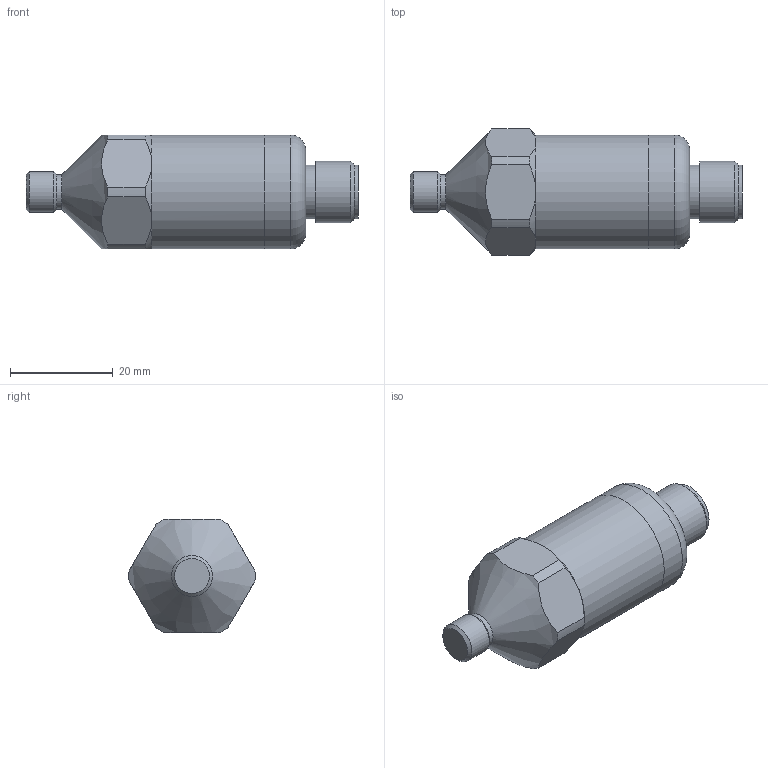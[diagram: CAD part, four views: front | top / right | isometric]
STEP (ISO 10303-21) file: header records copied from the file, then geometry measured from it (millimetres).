
FILE_DESCRIPTION(/* description */ (''),/* implementation_level */ '2;1');
FILE_NAME(/* name */ 'Z:\Engineering\Drawings\3D Library\Assemblies\Website\Premium Top\HS-150 Top M12 Conical\HS-150XXX5419stp.stp',/* time_stamp */ '2023-03-12T12:12:18+00:00',/* author */ ('Ricardo.Peneda'),/* organization */ (''),/* preprocessor_version */ 'ST-DEVELOPER v18.1',/* originating_system */ 'Autodesk Inventor 2021',/* authorisation */ '');
FILE_SCHEMA (('AUTOMOTIVE_DESIGN { 1 0 10303 214 3 1 1 }'));
Length unit declared in the file: inch
Products named in the file (1): HS-150XXX5419_Shrinkwrap_1
Bounding box: 64.66 x 24.59 x 22.2 mm (x, y, z)
Volume: 12228.5 mm3; surface area: 6839.1 mm2
Topology: 2 solids, 2 shells, 49 faces, 136 edges, 99 vertices
Faces by surface type: cylinder 19, plane 18, cone 11, torus 1
Full cylindrical faces by diameter (mm): 6.8 x1, 8 x1, 9.4 x2, 10.496 x1, 10.5 x1, 12 x1, 15.055 x1, 18 x1, 19.95 x1, 20 x1, 22.2 x2
Entity records: 1729 total; most frequent: CARTESIAN_POINT 359, DIRECTION 280, ORIENTED_EDGE 272, EDGE_CURVE 136, AXIS2_PLACEMENT_3D 125, VERTEX_POINT 99, CIRCLE 75, EDGE_LOOP 57
